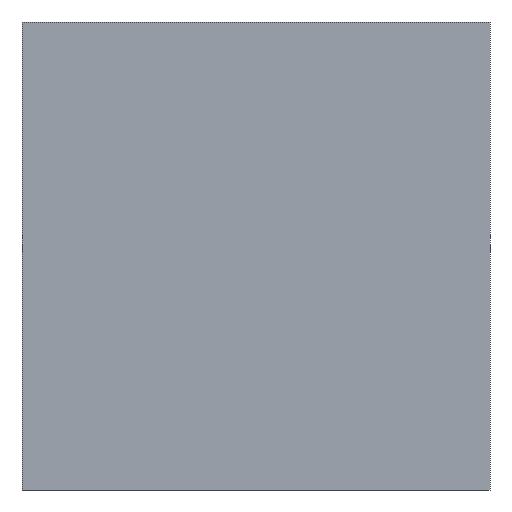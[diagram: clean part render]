
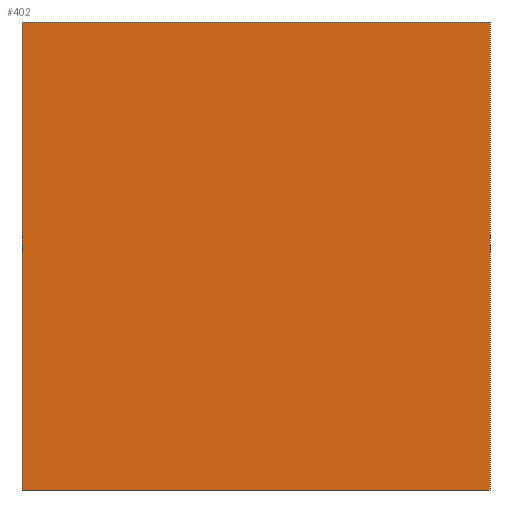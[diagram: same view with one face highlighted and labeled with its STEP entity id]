
A CAD part, left-side view. The second image highlights one B-rep face of the part: STEP entity #402.
In plain terms, the highlighted planar face has unit normal (-1, 0, 0).
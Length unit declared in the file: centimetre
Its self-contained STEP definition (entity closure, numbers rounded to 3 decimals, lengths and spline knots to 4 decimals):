
#21 = DIRECTION ( 'NONE',  ( 0., 0., -1. ) ) ;
#28 = AXIS2_PLACEMENT_3D ( 'NONE', #378, #425, #21 ) ;
#60 = DIRECTION ( 'NONE',  ( 0., 0., -1. ) ) ;
#93 = EDGE_LOOP ( 'NONE', ( #359, #257, #497, #492 ) ) ;
#97 = VERTEX_POINT ( 'NONE', #202 ) ;
#145 = EDGE_CURVE ( 'NONE', #278, #417, #283, .T. ) ;
#159 = EDGE_CURVE ( 'NONE', #259, #97, #247, .T. ) ;
#202 = CARTESIAN_POINT ( 'NONE',  ( 0., 0., 0. ) ) ;
#243 = DIRECTION ( 'NONE',  ( 0., -1., 0. ) ) ;
#247 = LINE ( 'NONE', #288, #307 ) ;
#257 = ORIENTED_EDGE ( 'NONE', *, *, #508, .F. ) ;
#259 = VERTEX_POINT ( 'NONE', #478 ) ;
#267 = LINE ( 'NONE', #350, #462 ) ;
#278 = VERTEX_POINT ( 'NONE', #475 ) ;
#283 = LINE ( 'NONE', #450, #416 ) ;
#288 = CARTESIAN_POINT ( 'NONE',  ( 0., 1000., 0. ) ) ;
#292 = CARTESIAN_POINT ( 'NONE',  ( 0., 0., 1000. ) ) ;
#303 = CARTESIAN_POINT ( 'NONE',  ( 0., 1000., 1000. ) ) ;
#307 = VECTOR ( 'NONE', #243, 100. ) ;
#350 = CARTESIAN_POINT ( 'NONE',  ( 0., 0., 1000. ) ) ;
#359 = ORIENTED_EDGE ( 'NONE', *, *, #159, .T. ) ;
#378 = CARTESIAN_POINT ( 'NONE',  ( 0., 1000., 1000. ) ) ;
#390 = EDGE_CURVE ( 'NONE', #278, #259, #428, .T. ) ;
#402 = ADVANCED_FACE ( 'NONE', ( #466 ), #422, .F. ) ;
#416 = VECTOR ( 'NONE', #447, 100. ) ;
#417 = VERTEX_POINT ( 'NONE', #292 ) ;
#422 = PLANE ( 'NONE',  #28 ) ;
#425 = DIRECTION ( 'NONE',  ( 1., 0., 0. ) ) ;
#428 = LINE ( 'NONE', #303, #440 ) ;
#431 = DIRECTION ( 'NONE',  ( 0., 0., -1. ) ) ;
#440 = VECTOR ( 'NONE', #60, 100. ) ;
#447 = DIRECTION ( 'NONE',  ( 0., -1., 0. ) ) ;
#450 = CARTESIAN_POINT ( 'NONE',  ( 0., 1000., 1000. ) ) ;
#462 = VECTOR ( 'NONE', #431, 100. ) ;
#466 = FACE_OUTER_BOUND ( 'NONE', #93, .T. ) ;
#475 = CARTESIAN_POINT ( 'NONE',  ( 0., 1000., 1000. ) ) ;
#478 = CARTESIAN_POINT ( 'NONE',  ( 0., 1000., 0. ) ) ;
#492 = ORIENTED_EDGE ( 'NONE', *, *, #390, .T. ) ;
#497 = ORIENTED_EDGE ( 'NONE', *, *, #145, .F. ) ;
#508 = EDGE_CURVE ( 'NONE', #417, #97, #267, .T. ) ;
